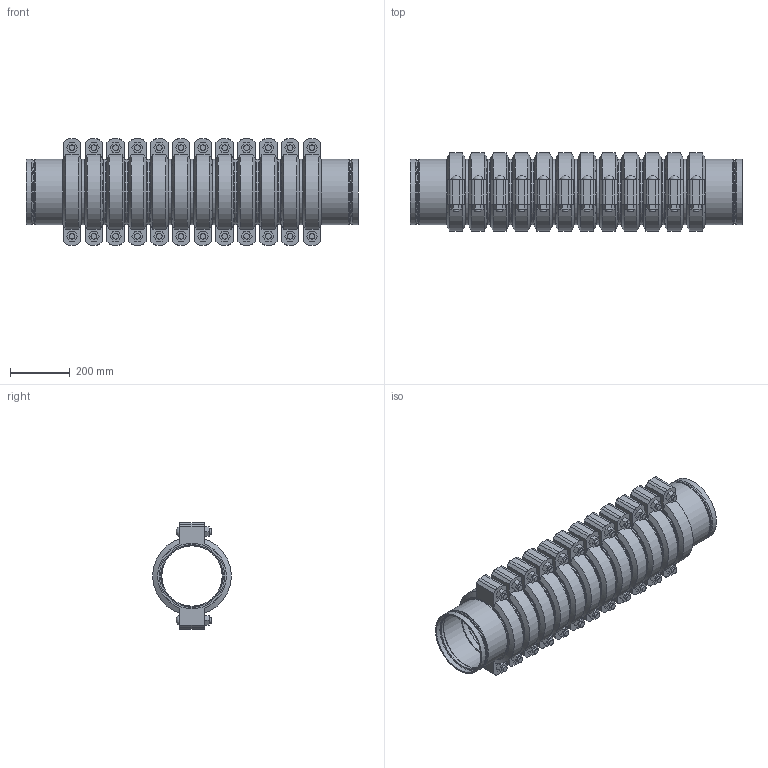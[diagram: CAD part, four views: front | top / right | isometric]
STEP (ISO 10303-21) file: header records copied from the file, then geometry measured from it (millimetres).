
FILE_DESCRIPTION(/* description */ ('VIC STRENGTHIN 100 EXPANSION JOINT 12 COUPLINGS NEUTRAL STYLE E155 (ST1)','CAx-IF Rec.Pracs.---Representation and Presentation of Product Manufacturing Information (PMI)---4.0---2014-10-13'),/* implementation_level */ '2;1');
FILE_NAME(/* name */ 'C:\Users\Vjadhav\AppData\Roaming\Autodesk\ApplicationPlugins\Victaulic.Temp\A29\Victaulic_SS-StrengThin 100_Expansion Joint_Neutral_12 Couplings_Style E155 (ST1)_12 Coup_Neut_8 (200).stp',/* time_stamp */ '2021-07-20T17:42:39+05:00',/* author */ ('kkamble'),/* organization */ ('Victaulic'),/* preprocessor_version */ 'ST-DEVELOPER v17.2',/* originating_system */ 'Autodesk Inventor 2019',/* authorisation */ '');
FILE_SCHEMA (('AP242_MANAGED_MODEL_BASED_3D_ENGINEERING_MIM_LF { 1 0 10303 442 1 1 4 }'));
Length unit declared in the file: inch
Products named in the file (4): E155-08.0; E494G-08.0; Nipple-08.0; 075-08.0
Assembly tree (25 placements, depth 2):
  E155-08.0
    E494G-08.0  x2
    Nipple-08.0  x11
    075-08.0  x12
Bounding box: 1111.25 x 261.72 x 354.84 mm (x, y, z)
Volume: 21258820.1 mm3; surface area: 3692678 mm2
Topology: 25 solids, 49 shells, 886 faces, 2156 edges, 1518 vertices
Faces by surface type: plane 512, cylinder 266, cone 52, torus 32, bspline 24
Full cylindrical faces by diameter (mm): 19.05 x48, 21.209 x24, 201.651 x2, 202.717 x11, 204.851 x2, 209.525 x6, 211.201 x2, 212.725 x12, 214.401 x24, 219.075 x63
Entity records: 3913 total; most frequent: DIRECTION 703, CARTESIAN_POINT 680, ORIENTED_EDGE 556, AXIS2_PLACEMENT_3D 302, EDGE_CURVE 278, VERTEX_POINT 201, CIRCLE 171, EDGE_LOOP 131
